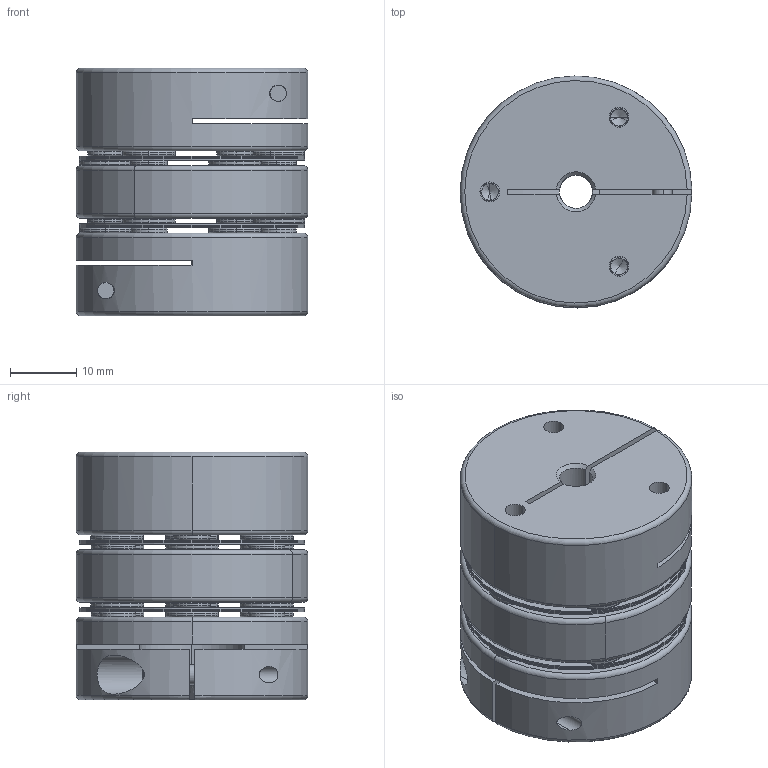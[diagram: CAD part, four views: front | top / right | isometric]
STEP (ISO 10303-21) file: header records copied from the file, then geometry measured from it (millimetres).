
FILE_DESCRIPTION (( 'STEP AP203' ), '1' );
FILE_NAME ('SADW-35C-5-16.STEP', '2019-10-22T09:41:58', ( '' ), ( '' ), 'SwSTEP 2.0', 'SolidWorks 2017', '' );
FILE_SCHEMA (( 'CONFIG_CONTROL_DESIGN' ));
Length unit declared in the file: metre
Products named in the file (1): SADW-35C-5-16
Bounding box: 35 x 35 x 37.4 mm (x, y, z)
Volume: 26718.4 mm3; surface area: 25959.7 mm2
Topology: 47 solids, 47 shells, 1056 faces, 2338 edges, 1382 vertices
Faces by surface type: cylinder 379, plane 307, torus 190, cone 180
Entity records: 29557 total; most frequent: DIRECTION 5722, CARTESIAN_POINT 5067, ORIENTED_EDGE 4604, AXIS2_PLACEMENT_3D 2393, EDGE_CURVE 2302, VERTEX_POINT 1382, CIRCLE 1336, EDGE_LOOP 1282
